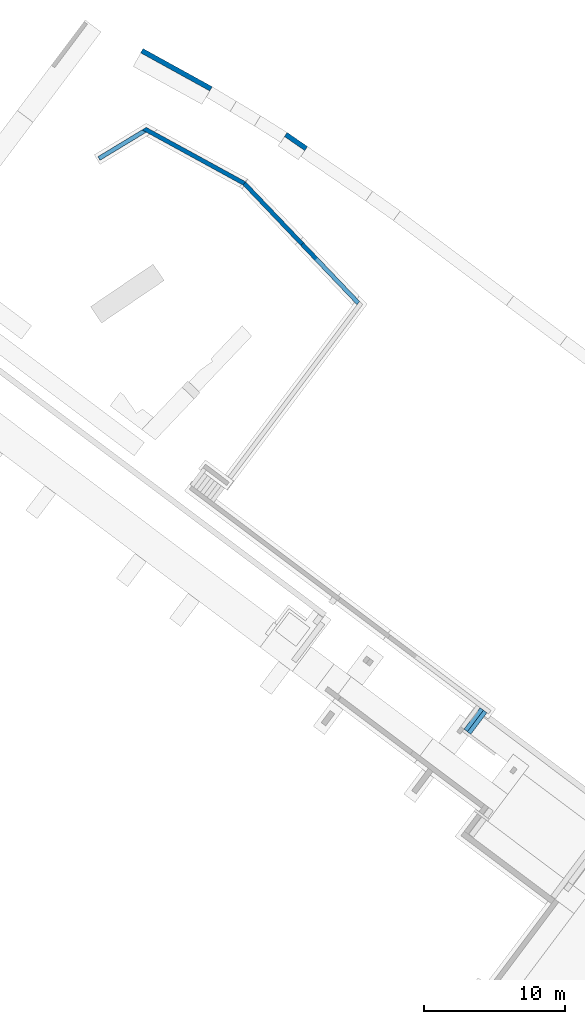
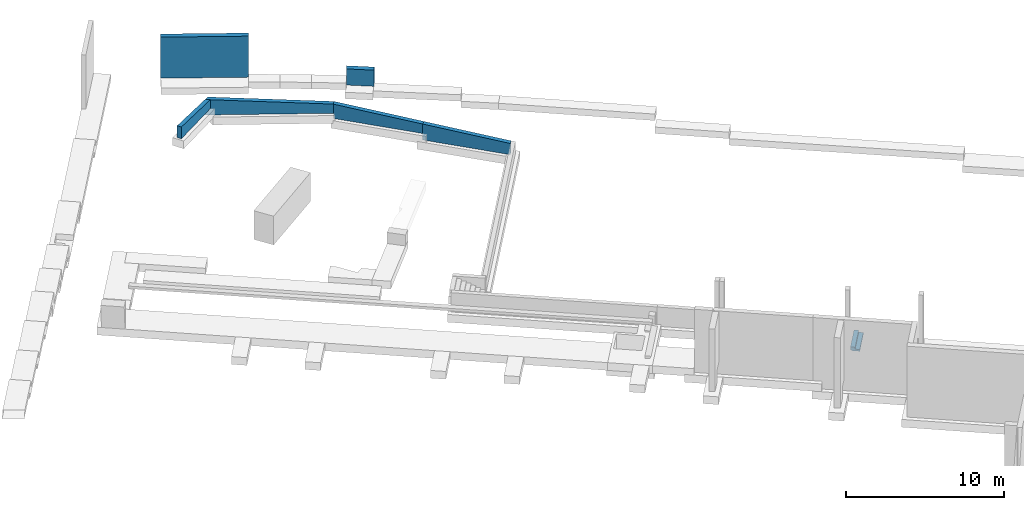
# One storey, part 6 of 9: 6 walls, 1 stair flight, 1 element without a shape of its own.
"""IFC2X3 building model written with IfcOpenShell, lengths in metres."""

from ifc_helpers import new_model, entity, si_unit, converted_unit, derived_unit, direction, frame, origin, place, context, subcontext, project, spatial, polyline, outline, extrude, faceted_brep, material, layer, layer_set, layer_usage, type_object, element, aggregate, save


model = new_model("IFC2X3")

# Units and contexts
model_context = context("Model", 3, precision=1e-05, world=origin(), true_north=direction((6.123031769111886e-17, 1.0)))
body_context = subcontext(model_context, "Body", "Model", "MODEL_VIEW")
ifc_project = project(units=[si_unit("LENGTHUNIT", "METRE"), si_unit("AREAUNIT", "SQUARE_METRE"), si_unit("VOLUMEUNIT", "CUBIC_METRE"), converted_unit("PLANEANGLEUNIT", "DEGREE", entity("IfcRatioMeasure", 0.017453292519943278), si_unit("PLANEANGLEUNIT", "RADIAN"), dimensions=[0, 0, 0, 0, 0, 0, 0]), si_unit("MASSUNIT", "GRAM", prefix="KILO"), derived_unit("MASSDENSITYUNIT", [(si_unit("MASSUNIT", "GRAM", prefix="KILO"), 1), (si_unit("LENGTHUNIT", "METRE"), -3)]), derived_unit("IONCONCENTRATIONUNIT", [(si_unit("MASSUNIT", "GRAM", prefix="KILO"), 1), (si_unit("LENGTHUNIT", "METRE"), -3)]), derived_unit("MOMENTOFINERTIAUNIT", [(si_unit("LENGTHUNIT", "METRE"), 4)]), si_unit("TIMEUNIT", "SECOND"), si_unit("FREQUENCYUNIT", "HERTZ"), si_unit("THERMODYNAMICTEMPERATUREUNIT", "DEGREE_CELSIUS"), derived_unit("THERMALTRANSMITTANCEUNIT", [(si_unit("MASSUNIT", "GRAM", prefix="KILO"), 1), (si_unit("THERMODYNAMICTEMPERATUREUNIT", "KELVIN"), -1), (si_unit("TIMEUNIT", "SECOND"), -3)]), derived_unit("THERMALCONDUCTANCEUNIT", [(si_unit("MASSUNIT", "GRAM", prefix="KILO"), 1), (si_unit("THERMODYNAMICTEMPERATUREUNIT", "KELVIN"), -1), (si_unit("TIMEUNIT", "SECOND"), -3), (si_unit("LENGTHUNIT", "METRE"), 1)]), derived_unit("VOLUMETRICFLOWRATEUNIT", [(si_unit("LENGTHUNIT", "METRE"), 3), (si_unit("TIMEUNIT", "SECOND"), -1)]), derived_unit("MASSFLOWRATEUNIT", [(si_unit("MASSUNIT", "GRAM", prefix="KILO"), 1), (si_unit("TIMEUNIT", "SECOND"), -1)]), derived_unit("ROTATIONALFREQUENCYUNIT", [(si_unit("TIMEUNIT", "SECOND"), -1)]), si_unit("ELECTRICCURRENTUNIT", "AMPERE"), si_unit("ELECTRICVOLTAGEUNIT", "VOLT"), si_unit("POWERUNIT", "WATT"), si_unit("FORCEUNIT", "NEWTON", prefix="KILO"), si_unit("ILLUMINANCEUNIT", "LUX"), si_unit("LUMINOUSFLUXUNIT", "LUMEN"), si_unit("LUMINOUSINTENSITYUNIT", "CANDELA"), derived_unit("USERDEFINED", [(si_unit("MASSUNIT", "GRAM", prefix="KILO"), -1), (si_unit("LENGTHUNIT", "METRE"), -2), (si_unit("TIMEUNIT", "SECOND"), 3), (si_unit("LUMINOUSFLUXUNIT", "LUMEN"), 1)]), derived_unit("USERDEFINED", [(si_unit("MASSUNIT", "GRAM", prefix="KILO"), 1), (si_unit("TIMEUNIT", "SECOND"), -3), (si_unit("LENGTHUNIT", "METRE"), 3), (si_unit("ELECTRICCURRENTUNIT", "AMPERE"), -2)]), derived_unit("SOUNDPOWERUNIT", [(si_unit("MASSUNIT", "GRAM", prefix="KILO"), 1), (si_unit("TIMEUNIT", "SECOND"), -3), (si_unit("LENGTHUNIT", "METRE"), 2)]), derived_unit("SOUNDPRESSUREUNIT", [(si_unit("MASSUNIT", "GRAM", prefix="KILO"), 1), (si_unit("LENGTHUNIT", "METRE"), -1), (si_unit("TIMEUNIT", "SECOND"), -2)]), derived_unit("LINEARVELOCITYUNIT", [(si_unit("LENGTHUNIT", "METRE"), 1), (si_unit("TIMEUNIT", "SECOND"), -1)]), si_unit("PRESSUREUNIT", "PASCAL"), derived_unit("USERDEFINED", [(si_unit("MASSUNIT", "GRAM", prefix="KILO"), 1), (si_unit("LENGTHUNIT", "METRE"), -2), (si_unit("TIMEUNIT", "SECOND"), -2)]), derived_unit("LINEARFORCEUNIT", [(si_unit("MASSUNIT", "GRAM", prefix="KILO"), 1), (si_unit("TIMEUNIT", "SECOND"), -2)]), derived_unit("PLANARFORCEUNIT", [(si_unit("MASSUNIT", "GRAM", prefix="KILO"), 1), (si_unit("LENGTHUNIT", "METRE"), -1), (si_unit("TIMEUNIT", "SECOND"), -2)]), derived_unit("SPECIFICHEATCAPACITYUNIT", [(si_unit("THERMODYNAMICTEMPERATUREUNIT", "KELVIN"), -1), (si_unit("LENGTHUNIT", "METRE"), 2), (si_unit("TIMEUNIT", "SECOND"), -2)]), derived_unit("HEATINGVALUEUNIT", [(si_unit("LENGTHUNIT", "METRE"), 2), (si_unit("TIMEUNIT", "SECOND"), -2)]), derived_unit("VAPORPERMEABILITYUNIT", [(si_unit("LENGTHUNIT", "METRE"), -1), (si_unit("TIMEUNIT", "SECOND"), 1)]), derived_unit("DYNAMICVISCOSITYUNIT", [(si_unit("MASSUNIT", "GRAM", prefix="KILO"), 1), (si_unit("TIMEUNIT", "SECOND"), -1), (si_unit("LENGTHUNIT", "METRE"), -1)]), derived_unit("THERMALEXPANSIONCOEFFICIENTUNIT", [(si_unit("THERMODYNAMICTEMPERATUREUNIT", "KELVIN"), -1)]), derived_unit("MODULUSOFELASTICITYUNIT", [(si_unit("MASSUNIT", "GRAM", prefix="KILO"), 1), (si_unit("LENGTHUNIT", "METRE"), -1), (si_unit("TIMEUNIT", "SECOND"), -2)]), derived_unit("ISOTHERMALMOISTURECAPACITYUNIT", [(si_unit("LENGTHUNIT", "METRE"), 3), (si_unit("MASSUNIT", "GRAM", prefix="KILO"), -1)]), derived_unit("MOISTUREDIFFUSIVITYUNIT", [(si_unit("TIMEUNIT", "SECOND"), -1), (si_unit("LENGTHUNIT", "METRE"), 2)])], contexts=[model_context])

# Site, building, storey
site_placement = place(None, origin())
site = spatial("IfcSite", under=ifc_project, at=site_placement, Name="Default", CompositionType="ELEMENT")
building_placement = place(site_placement, frame((0.0, 0.0, 235.0), z_axis=(0.0, 0.0, 1.0), x_axis=(-0.7996477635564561, 0.6004693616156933, 0.0)))
building = spatial("IfcBuilding", under=site, at=building_placement, CompositionType="ELEMENT")
storey_placement = place(building_placement, frame((0.0, 0.0, -5.4499999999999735)))
storey = spatial("IfcBuildingStorey", under=building, at=storey_placement, Name="PS1- Gimnàs", CompositionType="ELEMENT", Elevation=-5.4499999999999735)

# Walls
ifc_material = material(Name="_Formigó- T1- STR")
ifc_layer_1 = layer(ifc_material, 0.29999999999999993)
ifc_layer_set_1 = layer_set([ifc_layer_1], Name="Muro básico:STR- M- Formigó- Genèric- T1- 30 cm")
wall_type_1 = type_object("IfcWallType", Name="Muro básico:STR- M- Formigó- Genèric- T1- 30 cm", PredefinedType="STANDARD", material=ifc_layer_set_1)
wall_1_placement = place(storey_placement, frame((52.370506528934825, -59.73586418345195, -0.4500000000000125), z_axis=(0.0, 0.0, 1.0), x_axis=(0.9864146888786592, -0.16427434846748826, 0.0)))
element("IfcWall", 1, at=wall_1_placement, inside=storey, type_object=wall_type_1, Name="Muro básico:STR- M- Formigó- Genèric- T1- 30 cm", ObjectType="Muro básico:STR- M- Formigó- Genèric- T1- 30 cm", context=body_context, shape_type="Brep", body=[
    faceted_brep([(0.04996104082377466, -0.15000000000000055, 0.0), (5.792425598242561, -0.1499999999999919, 0.0), (5.792425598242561, -0.1499999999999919, 0.5000000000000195), (5.792425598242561, -0.1499999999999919, 1.2323776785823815), (0.07291465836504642, -0.1500000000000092, 0.8700000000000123), (0.04996104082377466, -0.15000000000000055, 0.8700000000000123), (0.0, 0.1499999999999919, 0.0), (0.0, 0.1499999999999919, 0.8700000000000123), (0.07291465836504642, 0.1499999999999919, 0.8700000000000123), (5.792425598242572, 0.15000000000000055, 1.2323776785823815), (5.792425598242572, 0.15000000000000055, 0.5000000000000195), (5.792425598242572, 0.15000000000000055, 0.0)], [[[0, 1, 2, 3, 4, 5]], [[6, 7, 8, 9, 10, 11]], [[0, 5, 7, 6]], [[1, 0, 6, 11]], [[4, 3, 9, 8]], [[5, 4, 8, 7]], [[3, 2, 1, 11, 10, 9]]]),
])
wall_2_placement = place(storey_placement, frame((63.90026715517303, -61.6631615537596, 0.44999999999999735), z_axis=(0.0, 0.0, 1.0), x_axis=(0.9897591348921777, 0.14274752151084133, 0.0)))
element("IfcWall", 2, at=wall_2_placement, inside=storey, type_object=wall_type_1, Name="Muro básico:STR- M- Formigó- Genèric- T1- 30 cm", ObjectType="Muro básico:STR- M- Formigó- Genèric- T1- 30 cm", context=body_context, shape_type="Brep", body=[
    faceted_brep([(8.001905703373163, -0.15000000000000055, 0.0), (8.001905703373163, -0.15000000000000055, 1.1790199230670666), (0.0, -0.15000000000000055, 0.7060495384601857), (0.0, -0.15000000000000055, 0.0), (8.175714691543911, 0.1500000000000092, 0.0), (0.04660853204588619, 0.15000000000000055, 0.0), (0.04660853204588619, 0.15000000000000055, 0.7088044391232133), (8.175714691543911, 0.1500000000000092, 1.189293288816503), (8.175714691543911, 0.1500000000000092, 0.5000000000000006)], [[[0, 1, 2, 3]], [[4, 5, 6, 7, 8]], [[1, 0, 4, 8, 7]], [[0, 3, 5, 4]], [[2, 1, 7, 6]], [[3, 2, 6, 5]]]),
])
wall_3_placement = place(storey_placement, frame((71.76687683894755, -60.453025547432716, 0.9499999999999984), z_axis=(0.0, 0.0, 1.0), x_axis=(0.37265680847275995, 0.9279692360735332, 0.0)))
element("IfcWall", 3, at=wall_3_placement, inside=storey, type_object=wall_type_1, Name="Muro básico:STR- M- Formigó- Genèric- T1- 30 cm", ObjectType="Muro básico:STR- M- Formigó- Genèric- T1- 30 cm", context=body_context, shape_type="Brep", body=[
    faceted_brep([(0.17380898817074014, -0.1499999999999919, 0.0), (3.8301858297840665, -0.14999999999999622, 0.0), (3.8301858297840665, -0.14999999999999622, 0.9145599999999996), (0.17380898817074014, -0.1499999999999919, 0.6946715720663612), (0.17380898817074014, -0.1499999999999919, 0.689293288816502), (0.0, 0.15000000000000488, 0.0), (0.0, 0.15000000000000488, 0.6842189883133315), (3.8301858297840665, 0.15000000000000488, 0.9145599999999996), (3.8301858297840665, 0.15000000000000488, 0.0)], [[[0, 1, 2, 3, 4]], [[5, 6, 7, 8]], [[0, 4, 3, 6, 5]], [[1, 0, 5, 8]], [[2, 1, 8, 7]], [[3, 2, 7, 6]]]),
])
wall_4_placement = place(storey_placement, frame((58.08424022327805, -60.68741112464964, 0.050000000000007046), z_axis=(0.0, 0.0, 1.0), x_axis=(0.9864146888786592, -0.16427434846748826, 0.0)))
element("IfcWall", 4, at=wall_4_placement, inside=storey, type_object=wall_type_1, Name="Muro básico:STR- M- Formigó- Genèric- T1- 30 cm", ObjectType="Muro básico:STR- M- Formigó- Genèric- T1- 30 cm", context=body_context, shape_type="Brep", body=[
    faceted_brep([(5.94281520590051, -0.15000000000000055, 0.3699999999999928), (5.94281520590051, -0.15000000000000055, 1.1089035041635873), (0.0, -0.1499999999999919, 0.7323776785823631), (0.0, -0.1499999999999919, 0.0), (5.94281520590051, -0.15000000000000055, 0.0), (5.896206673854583, 0.15000000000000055, 0.3699999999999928), (5.896206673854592, 0.15000000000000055, 0.0), (0.0, 0.15000000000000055, 0.0), (0.0, 0.15000000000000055, 0.7323776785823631), (5.896206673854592, 0.15000000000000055, 1.1059504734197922)], [[[0, 1, 2, 3, 4]], [[5, 6, 7, 8, 9]], [[2, 1, 9, 8]], [[3, 2, 8, 7]], [[4, 3, 7, 6]], [[1, 0, 4, 6, 5, 9]]]),
])
ifc_layer_2 = layer(ifc_material, 0.35)
ifc_layer_set_2 = layer_set([ifc_layer_2], Name="Muro básico:STR- M- Formigó- Genèric- T1- 35 cm")
ifc_layer_usage = layer_usage(ifc_layer_set_2, "AXIS2", "NEGATIVE", 0.175)
wall_type_2 = type_object("IfcWallType", Name="Muro básico:STR- M- Formigó- Genèric- T1- 35 cm", PredefinedType="STANDARD", material=ifc_layer_set_2)
wall_5_placement = place(storey_placement, frame((75.34442528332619, -64.81289961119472, 0.024999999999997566), z_axis=(0.0, 0.0, 1.0), x_axis=(-0.9901865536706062, -0.1397518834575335, 0.0)))
element("IfcWallStandardCase", 5, at=wall_5_placement, inside=storey, type_object=wall_type_2, material=ifc_layer_usage, Name="Muro básico:STR- M- Formigó- Genèric- T1- 35 cm", ObjectType="Muro básico:STR- M- Formigó- Genèric- T1- 35 cm", context=body_context, shape_type="SweptSolid", body=[
    extrude(outline(polyline([(5.577411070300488, -0.1750000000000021), (5.583932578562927, 0.17499999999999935), (0.0, 0.17499999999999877), (0.0, -0.175), (5.577411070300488, -0.1750000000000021)])), origin(), (0.0, 0.0, 1.0), 3.1749999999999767),
])
wall_6_placement = place(storey_placement, frame((63.65566715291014, -66.18725006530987, -0.4750000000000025), z_axis=(0.0, 0.0, 1.0), x_axis=(-0.9992363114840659, -0.03907420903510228, 0.0)))
element("IfcWallStandardCase", 6, at=wall_6_placement, inside=storey, type_object=wall_type_2, material=ifc_layer_usage, Name="Muro básico:STR- M- Formigó- Genèric- T1- 35 cm", ObjectType="Muro básico:STR- M- Formigó- Genèric- T1- 35 cm", context=body_context, shape_type="SweptSolid", body=[
    extrude(outline(polyline([(1.7548834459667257, -0.17499999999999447), (1.754308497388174, 0.1750000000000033), (0.0, 0.17500000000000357), (0.007823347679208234, -0.17500000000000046), (1.7548834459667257, -0.17499999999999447)])), origin(), (0.0, 0.0, 1.0), 1.2499999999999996),
])

# Stair, stair flight
stair_placement = place(storey_placement, origin())
stair = element("IfcStair", 7, at=stair_placement, inside=storey, Name="Escalera moldeada in situ:Escalera", ObjectType="Escalera moldeada in situ:E-X1- Exterior", ShapeType="STRAIGHT_RUN_STAIR")
stair_flight_type = type_object("IfcStairFlightType", Name="Tramo monolítico:E00- STR- Ext", PredefinedType="STRAIGHT")
stair_flight_placement = place(stair_placement, frame((27.745147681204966, -42.040191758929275, 0.0)))
stair_flight = element("IfcStairFlight", 8, at=stair_flight_placement, type_object=stair_flight_type, material=ifc_material, Name="Escalera moldeada in situ:Escalera:41321 Run 1", ObjectType="Tramo monolítico:E00- STR- Ext", NumberOfRiser=3, NumberOfTreads=2, RiserHeight=0.47025371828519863, TreadLength=0.9842519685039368, context=body_context, shape_type="Brep", body=[
    faceted_brep([(0.30000000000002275, 1.899999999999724, 0.0833333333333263), (0.0, 1.8999999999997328, 0.0833333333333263), (0.0, 0.0, 0.0833333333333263), (0.2999999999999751, 0.0, 0.0833333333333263), (0.30000000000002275, 1.899999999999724, -0.06000000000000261), (0.0, 1.8999999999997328, -0.06000000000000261), (0.0, 0.0, -0.06000000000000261), (0.2999999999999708, 0.0, -0.06000000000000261), (0.5999999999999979, 1.899999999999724, 0.2266666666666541), (0.2999999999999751, 1.8999999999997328, 0.2266666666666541), (0.2999999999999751, 0.0, 0.2266666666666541), (0.5999999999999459, 0.0, 0.2266666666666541), (0.5999999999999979, 1.899999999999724, 0.005011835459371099), (0.46392871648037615, 1.899999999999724, -0.06000000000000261), (0.4639287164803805, 0.0, -0.06000000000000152), (0.5999999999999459, 0.0, 0.005011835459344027)], [[[0, 1, 2, 3]], [[1, 0, 4, 5]], [[2, 1, 5, 6]], [[3, 2, 6, 7]], [[8, 9, 10, 11]], [[4, 0, 9, 8, 12, 13]], [[0, 3, 10, 9]], [[3, 7, 14, 15, 11, 10]], [[8, 11, 15, 12]], [[5, 4, 13, 14, 7, 6]], [[14, 13, 12, 15]]]),
])
aggregate(stair, [stair_flight])

save(model, "model.ifc")
